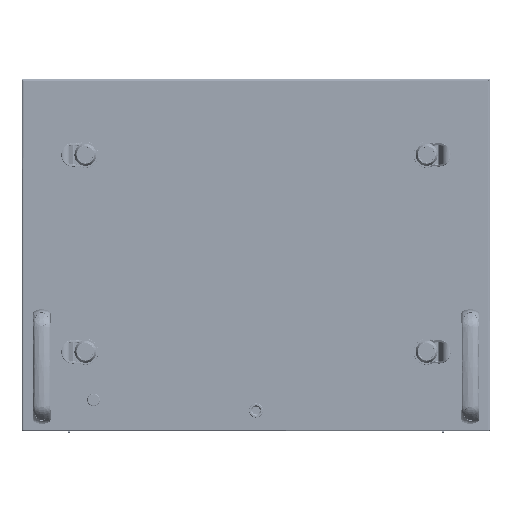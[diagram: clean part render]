
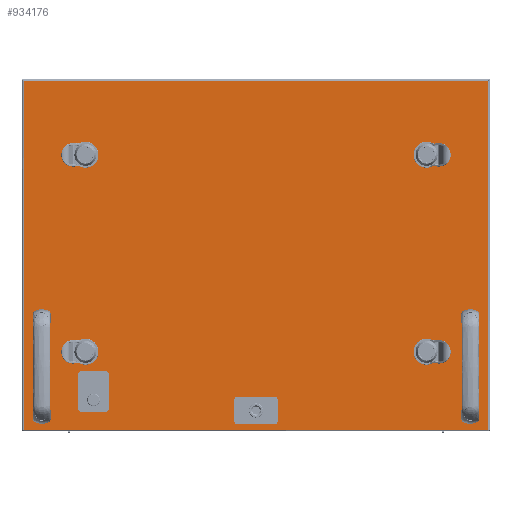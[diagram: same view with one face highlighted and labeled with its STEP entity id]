
A CAD part, front view. The second image highlights one B-rep face of the part: STEP entity #934176.
In plain terms, the highlighted planar face has unit normal (0, -1, 0) as drawn and (0, 0, 1) by its records, which use the part's own axes.
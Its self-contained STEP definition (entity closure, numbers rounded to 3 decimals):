
#931646=CARTESIAN_POINT(' ',(591.7,444.7,0.));
#931651=DIRECTION(' ',(0.,-1.,0.));
#931656=VECTOR(' ',#931651,1.);
#931661=LINE('',#931646,#931656);
#931666=CARTESIAN_POINT(' ',(591.7,444.7,0.));
#931667=VERTEX_POINT(' ',#931666);
#931671=CARTESIAN_POINT(' ',(591.7,2.3,0.));
#931672=VERTEX_POINT(' ',#931671);
#931676=EDGE_CURVE(' ',#931667,#931672,#931661,.T.);
#933276=DIRECTION(' ',(-0.,-0.,1.));
#933281=CARTESIAN_POINT(' ',(591.7,2.3,0.));
#933286=DIRECTION(' ',(0.,1.,0.));
#933291=AXIS2_PLACEMENT_3D(' ',#933281,#933276,#933286);
#933296=PLANE('NONE',#933291);
#933301=CARTESIAN_POINT(' ',(2.3,2.3,0.));
#933306=DIRECTION(' ',(1.,0.,0.));
#933311=VECTOR(' ',#933306,1.);
#933316=LINE('',#933301,#933311);
#933321=CARTESIAN_POINT(' ',(2.3,2.3,0.));
#933322=VERTEX_POINT(' ',#933321);
#933326=EDGE_CURVE(' ',#933322,#931672,#933316,.T.);
#933331=ORIENTED_EDGE(' ',*,*,#933326,.T.);
#933336=ORIENTED_EDGE(' ',*,*,#931676,.F.);
#933341=CARTESIAN_POINT(' ',(591.7,444.7,0.));
#933346=DIRECTION(' ',(-1.,0.,0.));
#933351=VECTOR(' ',#933346,1.);
#933356=LINE('',#933341,#933351);
#933361=CARTESIAN_POINT(' ',(2.3,444.7,0.));
#933362=VERTEX_POINT(' ',#933361);
#933366=EDGE_CURVE(' ',#931667,#933362,#933356,.T.);
#933371=ORIENTED_EDGE(' ',*,*,#933366,.T.);
#933376=CARTESIAN_POINT(' ',(2.3,444.7,0.));
#933381=DIRECTION(' ',(0.,-1.,0.));
#933386=VECTOR(' ',#933381,1.);
#933391=LINE('',#933376,#933386);
#933396=EDGE_CURVE(' ',#933362,#933322,#933391,.T.);
#933401=ORIENTED_EDGE(' ',*,*,#933396,.T.);
#933406=EDGE_LOOP(' ',(#933331,#933336,#933371,#933401));
#933411=FACE_OUTER_BOUND(' ',#933406,.T.);
#933416=CARTESIAN_POINT(' ',(110.85,30.,0.));
#933421=DIRECTION(' ',(0.,1.,0.));
#933426=VECTOR(' ',#933421,1.);
#933431=LINE('',#933416,#933426);
#933436=CARTESIAN_POINT(' ',(110.85,30.,0.));
#933437=VERTEX_POINT(' ',#933436);
#933441=CARTESIAN_POINT(' ',(110.85,71.,0.));
#933442=VERTEX_POINT(' ',#933441);
#933446=EDGE_CURVE(' ',#933437,#933442,#933431,.T.);
#933451=ORIENTED_EDGE(' ',*,*,#933446,.F.);
#933456=CARTESIAN_POINT(' ',(104.85,30.,0.));
#933461=DIRECTION(' ',(0.,-0.,1.));
#933466=DIRECTION(' ',(0.,-1.,0.));
#933471=AXIS2_PLACEMENT_3D(' ',#933456,#933461,#933466);
#933476=CIRCLE('',#933471,6.);
#933481=CARTESIAN_POINT(' ',(104.85,24.,0.));
#933482=VERTEX_POINT(' ',#933481);
#933486=EDGE_CURVE(' ',#933482,#933437,#933476,.T.);
#933491=ORIENTED_EDGE(' ',*,*,#933486,.F.);
#933496=CARTESIAN_POINT(' ',(76.85,24.,0.));
#933501=DIRECTION(' ',(1.,0.,0.));
#933506=VECTOR(' ',#933501,1.);
#933511=LINE('',#933496,#933506);
#933516=CARTESIAN_POINT(' ',(76.85,24.,0.));
#933517=VERTEX_POINT(' ',#933516);
#933521=EDGE_CURVE(' ',#933517,#933482,#933511,.T.);
#933526=ORIENTED_EDGE(' ',*,*,#933521,.F.);
#933531=CARTESIAN_POINT(' ',(76.85,30.,0.));
#933536=DIRECTION(' ',(0.,0.,1.));
#933541=DIRECTION(' ',(-1.,0.,0.));
#933546=AXIS2_PLACEMENT_3D(' ',#933531,#933536,#933541);
#933551=CIRCLE('',#933546,6.);
#933556=CARTESIAN_POINT(' ',(70.85,30.,0.));
#933557=VERTEX_POINT(' ',#933556);
#933561=EDGE_CURVE(' ',#933557,#933517,#933551,.T.);
#933566=ORIENTED_EDGE(' ',*,*,#933561,.F.);
#933571=CARTESIAN_POINT(' ',(70.85,71.,0.));
#933576=DIRECTION(' ',(0.,-1.,0.));
#933581=VECTOR(' ',#933576,1.);
#933586=LINE('',#933571,#933581);
#933591=CARTESIAN_POINT(' ',(70.85,71.,0.));
#933592=VERTEX_POINT(' ',#933591);
#933596=EDGE_CURVE(' ',#933592,#933557,#933586,.T.);
#933601=ORIENTED_EDGE(' ',*,*,#933596,.F.);
#933606=CARTESIAN_POINT(' ',(76.85,71.,0.));
#933611=DIRECTION(' ',(0.,0.,1.));
#933616=DIRECTION(' ',(0.,1.,0.));
#933621=AXIS2_PLACEMENT_3D(' ',#933606,#933611,#933616);
#933626=CIRCLE('',#933621,6.);
#933631=CARTESIAN_POINT(' ',(76.85,77.,0.));
#933632=VERTEX_POINT(' ',#933631);
#933636=EDGE_CURVE(' ',#933632,#933592,#933626,.T.);
#933641=ORIENTED_EDGE(' ',*,*,#933636,.F.);
#933646=CARTESIAN_POINT(' ',(104.85,77.,0.));
#933651=DIRECTION(' ',(-1.,0.,0.));
#933656=VECTOR(' ',#933651,1.);
#933661=LINE('',#933646,#933656);
#933666=CARTESIAN_POINT(' ',(104.85,77.,0.));
#933667=VERTEX_POINT(' ',#933666);
#933671=EDGE_CURVE(' ',#933667,#933632,#933661,.T.);
#933676=ORIENTED_EDGE(' ',*,*,#933671,.F.);
#933681=CARTESIAN_POINT(' ',(104.85,71.,0.));
#933686=DIRECTION(' ',(0.,0.,1.));
#933691=DIRECTION(' ',(1.,0.,0.));
#933696=AXIS2_PLACEMENT_3D(' ',#933681,#933686,#933691);
#933701=CIRCLE('',#933696,6.);
#933706=EDGE_CURVE(' ',#933442,#933667,#933701,.T.);
#933711=ORIENTED_EDGE(' ',*,*,#933706,.F.);
#933716=EDGE_LOOP(' ',(#933451,#933491,#933526,#933566,#933601,#933641,#933676,#933711));
#933721=FACE_BOUND(' ',#933716,.T.);
#933726=CARTESIAN_POINT(' ',(297.,26.5,0.));
#933731=DIRECTION(' ',(0.,-0.,-1.));
#933736=DIRECTION(' ',(-1.,0.,0.));
#933741=AXIS2_PLACEMENT_3D(' ',#933726,#933731,#933736);
#933746=CIRCLE('',#933741,10.);
#933751=CARTESIAN_POINT(' ',(287.,26.5,0.));
#933752=VERTEX_POINT(' ',#933751);
#933756=CARTESIAN_POINT(' ',(307.,26.5,0.));
#933757=VERTEX_POINT(' ',#933756);
#933761=EDGE_CURVE(' ',#933752,#933757,#933746,.T.);
#933766=ORIENTED_EDGE(' ',*,*,#933761,.T.);
#933771=CARTESIAN_POINT(' ',(297.,26.5,0.));
#933776=DIRECTION(' ',(0.,0.,-1.));
#933781=DIRECTION(' ',(1.,0.,0.));
#933786=AXIS2_PLACEMENT_3D(' ',#933771,#933776,#933781);
#933791=CIRCLE('',#933786,10.);
#933796=EDGE_CURVE(' ',#933757,#933752,#933791,.T.);
#933801=ORIENTED_EDGE(' ',*,*,#933796,.T.);
#933806=EDGE_LOOP(' ',(#933766,#933801));
#933811=FACE_BOUND(' ',#933806,.T.);
#933816=CARTESIAN_POINT(' ',(569.,23.5,0.));
#933821=DIRECTION(' ',(0.,0.,-1.));
#933826=DIRECTION(' ',(-1.,0.,0.));
#933831=AXIS2_PLACEMENT_3D(' ',#933816,#933821,#933826);
#933836=CIRCLE('',#933831,3.75);
#933841=CARTESIAN_POINT(' ',(565.25,23.5,0.));
#933842=VERTEX_POINT(' ',#933841);
#933846=CARTESIAN_POINT(' ',(572.75,23.5,0.));
#933847=VERTEX_POINT(' ',#933846);
#933851=EDGE_CURVE(' ',#933842,#933847,#933836,.T.);
#933856=ORIENTED_EDGE(' ',*,*,#933851,.T.);
#933861=CARTESIAN_POINT(' ',(569.,23.5,0.));
#933866=DIRECTION(' ',(0.,0.,-1.));
#933871=DIRECTION(' ',(1.,0.,0.));
#933876=AXIS2_PLACEMENT_3D(' ',#933861,#933866,#933871);
#933881=CIRCLE('',#933876,3.75);
#933886=EDGE_CURVE(' ',#933847,#933842,#933881,.T.);
#933891=ORIENTED_EDGE(' ',*,*,#933886,.T.);
#933896=EDGE_LOOP(' ',(#933856,#933891));
#933901=FACE_BOUND(' ',#933896,.T.);
#933906=CARTESIAN_POINT(' ',(569.,143.5,0.));
#933911=DIRECTION(' ',(0.,0.,-1.));
#933916=DIRECTION(' ',(-1.,0.,0.));
#933921=AXIS2_PLACEMENT_3D(' ',#933906,#933911,#933916);
#933926=CIRCLE('',#933921,3.75);
#933931=CARTESIAN_POINT(' ',(565.25,143.5,0.));
#933932=VERTEX_POINT(' ',#933931);
#933936=CARTESIAN_POINT(' ',(572.75,143.5,0.));
#933937=VERTEX_POINT(' ',#933936);
#933941=EDGE_CURVE(' ',#933932,#933937,#933926,.T.);
#933946=ORIENTED_EDGE(' ',*,*,#933941,.T.);
#933951=CARTESIAN_POINT(' ',(569.,143.5,0.));
#933956=DIRECTION(' ',(0.,0.,-1.));
#933961=DIRECTION(' ',(1.,0.,0.));
#933966=AXIS2_PLACEMENT_3D(' ',#933951,#933956,#933961);
#933971=CIRCLE('',#933966,3.75);
#933976=EDGE_CURVE(' ',#933937,#933932,#933971,.T.);
#933981=ORIENTED_EDGE(' ',*,*,#933976,.T.);
#933986=EDGE_LOOP(' ',(#933946,#933981));
#933991=FACE_BOUND(' ',#933986,.T.);
#933996=CARTESIAN_POINT(' ',(25.,23.5,0.));
#934001=DIRECTION(' ',(0.,0.,-1.));
#934006=DIRECTION(' ',(-1.,0.,0.));
#934011=AXIS2_PLACEMENT_3D(' ',#933996,#934001,#934006);
#934016=CIRCLE('',#934011,3.75);
#934021=CARTESIAN_POINT(' ',(21.25,23.5,0.));
#934022=VERTEX_POINT(' ',#934021);
#934026=CARTESIAN_POINT(' ',(28.75,23.5,0.));
#934027=VERTEX_POINT(' ',#934026);
#934031=EDGE_CURVE(' ',#934022,#934027,#934016,.T.);
#934036=ORIENTED_EDGE(' ',*,*,#934031,.T.);
#934041=CARTESIAN_POINT(' ',(25.,23.5,0.));
#934046=DIRECTION(' ',(0.,0.,-1.));
#934051=DIRECTION(' ',(1.,0.,0.));
#934056=AXIS2_PLACEMENT_3D(' ',#934041,#934046,#934051);
#934061=CIRCLE('',#934056,3.75);
#934066=EDGE_CURVE(' ',#934027,#934022,#934061,.T.);
#934071=ORIENTED_EDGE(' ',*,*,#934066,.T.);
#934076=EDGE_LOOP(' ',(#934036,#934071));
#934081=FACE_BOUND(' ',#934076,.T.);
#934086=CARTESIAN_POINT(' ',(25.,143.5,0.));
#934091=DIRECTION(' ',(0.,0.,-1.));
#934096=DIRECTION(' ',(-1.,0.,0.));
#934101=AXIS2_PLACEMENT_3D(' ',#934086,#934091,#934096);
#934106=CIRCLE('',#934101,3.75);
#934111=CARTESIAN_POINT(' ',(21.25,143.5,0.));
#934112=VERTEX_POINT(' ',#934111);
#934116=CARTESIAN_POINT(' ',(28.75,143.5,0.));
#934117=VERTEX_POINT(' ',#934116);
#934121=EDGE_CURVE(' ',#934112,#934117,#934106,.T.);
#934126=ORIENTED_EDGE(' ',*,*,#934121,.T.);
#934131=CARTESIAN_POINT(' ',(25.,143.5,0.));
#934136=DIRECTION(' ',(0.,0.,-1.));
#934141=DIRECTION(' ',(1.,0.,0.));
#934146=AXIS2_PLACEMENT_3D(' ',#934131,#934136,#934141);
#934151=CIRCLE('',#934146,3.75);
#934156=EDGE_CURVE(' ',#934117,#934112,#934151,.T.);
#934161=ORIENTED_EDGE(' ',*,*,#934156,.T.);
#934166=EDGE_LOOP(' ',(#934126,#934161));
#934171=FACE_BOUND(' ',#934166,.T.);
#934176=ADVANCED_FACE('NONE',(#933411,#933721,#933811,#933901,#933991,#934081,#934171),#933296,.T.);
